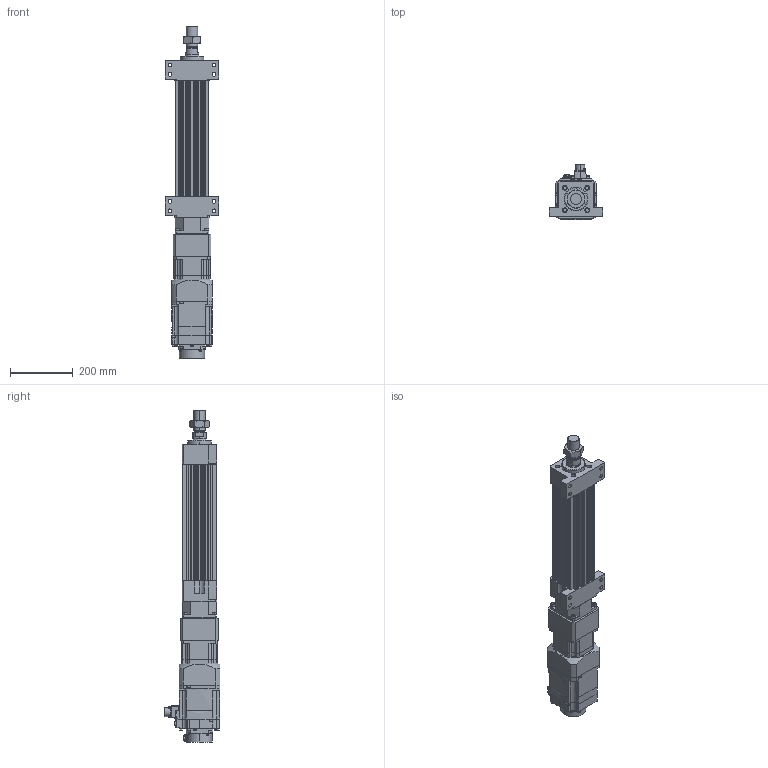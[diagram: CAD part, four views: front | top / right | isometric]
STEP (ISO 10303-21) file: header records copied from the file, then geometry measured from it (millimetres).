
FILE_DESCRIPTION (( 'STEP AP203' ), '1' );
FILE_NAME ('HES110NS(HS)-S200-W015G00-M-FFB.STEP', '2026-06-10T05:58:14', ( 'tms' ), ( '' ), 'SwSTEP 2.0', 'SolidWorks 2013', '' );
FILE_SCHEMA (( 'CONFIG_CONTROL_DESIGN' ));
Length unit declared in the file: millimetre
Products named in the file (8): HES110-S-G120; HG-SR152B; AB1151; HES110-M-ROD-200; AB1152; M36X1.5P; HES110NS(HS)-S200-W015G00-M-FFB; HES110-FFB-200
Assembly tree (7 placements, depth 2):
  HES110NS(HS)-S200-W015G00-M-FFB
    HES110-FFB-200
    HES110-M-ROD-200
    M36X1.5P
    HES110-S-G120
    AB1151
    AB1152
    HG-SR152B
Bounding box: 170 x 177.49 x 1056 mm (x, y, z)
Volume: 7307537 mm3; surface area: 928351.1 mm2
Topology: 5 solids, 12 shells, 1199 faces, 3044 edges, 1985 vertices
Faces by surface type: plane 561, cylinder 554, cone 70, bspline 10, torus 4
Entity records: 38159 total; most frequent: CARTESIAN_POINT 7343, DIRECTION 6579, ORIENTED_EDGE 6060, EDGE_CURVE 3040, AXIS2_PLACEMENT_3D 2434, VERTEX_POINT 1985, LINE 1711, VECTOR 1711
